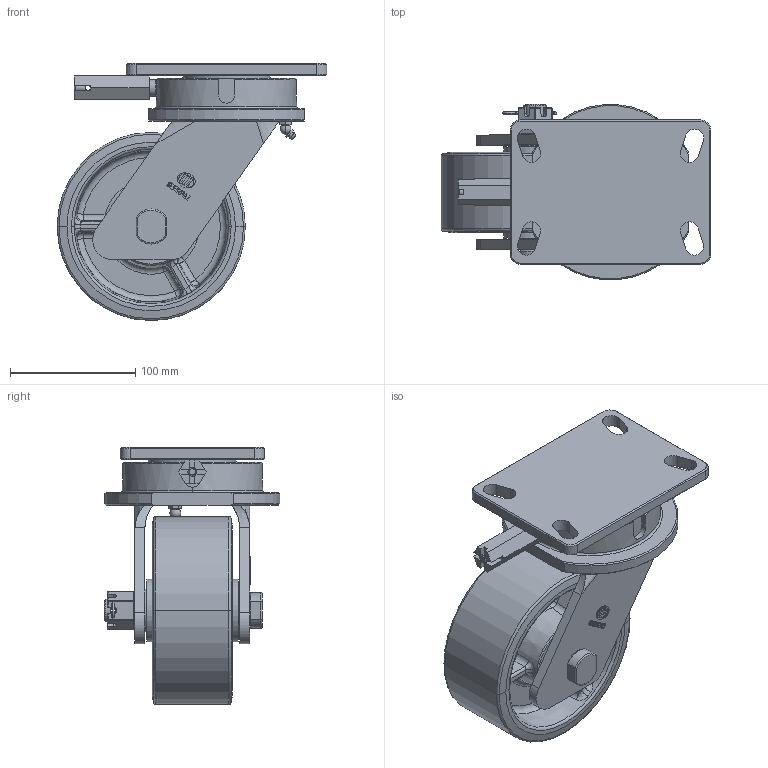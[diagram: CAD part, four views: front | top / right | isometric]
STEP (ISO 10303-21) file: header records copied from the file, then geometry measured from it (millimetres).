
FILE_DESCRIPTION(/* description */ (''),/* implementation_level */ '2;1');
FILE_NAME(/* name */ '40A13_6_F.stp',/* time_stamp */ '2022-08-29T09:42:58+08:00',/* author */ (''),/* organization */ (''),/* preprocessor_version */ 'ST-DEVELOPER v14',/* originating_system */ 'SIEMENS PLM Software NX 8.0',/* authorisation */ '');
FILE_SCHEMA (('AUTOMOTIVE_DESIGN { 1 0 10303 214 3 1 1 1 }'));
Length unit declared in the file: millimetre
Products named in the file (1): 40A13_6_F
Bounding box: 215 x 140 x 205 mm (x, y, z)
Volume: 1434022.8 mm3; surface area: 235486.7 mm2
Topology: 1 solids, 2 shells, 703 faces, 1794 edges, 1091 vertices
Faces by surface type: plane 324, cylinder 199, torus 56, sphere 46, cone 40, bspline 38
Full cylindrical faces by diameter (mm): 4 x1, 12.5 x1, 13 x1
Entity records: 23915 total; most frequent: CARTESIAN_POINT 7949, ORIENTED_EDGE 3492, DIRECTION 3069, EDGE_CURVE 1746, AXIS2_PLACEMENT_3D 1172, VERTEX_POINT 1090, EDGE_LOOP 764, LINE 725
